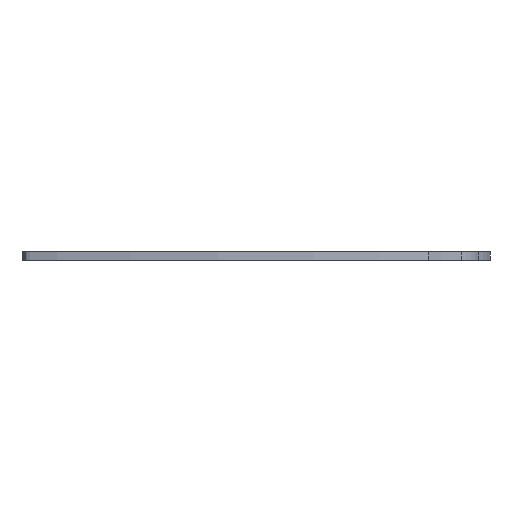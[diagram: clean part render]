
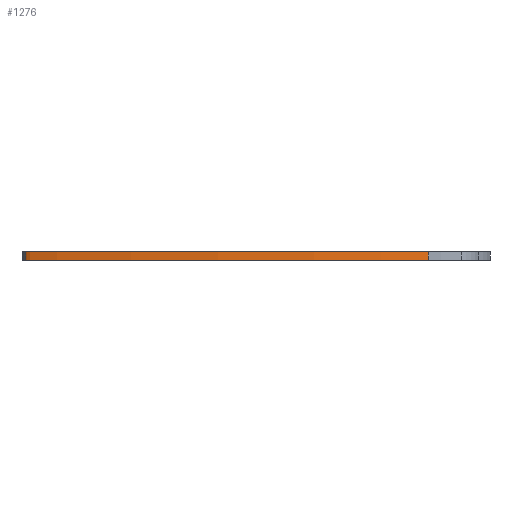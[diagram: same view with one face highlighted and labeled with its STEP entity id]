
A CAD part, front view. The second image highlights one B-rep face of the part: STEP entity #1276.
In plain terms, the highlighted face is a extrusion surface.
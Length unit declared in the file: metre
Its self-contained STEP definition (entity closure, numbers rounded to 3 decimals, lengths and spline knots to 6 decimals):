
#1276=ADVANCED_FACE('',(#2690),#2691,.T.);
#2690=FACE_OUTER_BOUND('',#4874,.T.);
#2691=SURFACE_OF_LINEAR_EXTRUSION('',#4875,#4876);
#4874=EDGE_LOOP('',(#10976,#10977,#10978,#10979));
#4875=B_SPLINE_CURVE_WITH_KNOTS('',3,(#10980,#10981,#10982,#10983,#10984,#10985,#10986,#10987,#10988,#10989,#10990,#10991,#10992,#10993,#10994,#10995,#10996),.UNSPECIFIED.,.F.,.F.,(4,1,1,1,1,1,1,1,1,1,1,1,1,1,4),(0.726109,0.729644,0.732934,0.736967,0.744913,0.752372,0.766561,0.777286,0.783243,0.789548,0.795537,0.800211,0.806229,0.810843,0.815116),.UNSPECIFIED.);
#4876=VECTOR('',#10997,1.0);
#10976=ORIENTED_EDGE('',*,*,#13448,.F.);
#10977=ORIENTED_EDGE('',*,*,#13942,.F.);
#10978=ORIENTED_EDGE('',*,*,#13120,.T.);
#10979=ORIENTED_EDGE('',*,*,#13940,.T.);
#10980=CARTESIAN_POINT('',(0.190926,0.251626,0.0));
#10981=CARTESIAN_POINT('',(0.188691,0.250937,0.0));
#10982=CARTESIAN_POINT('',(0.18415,0.24975,0.0));
#10983=CARTESIAN_POINT('',(0.177123,0.248167,0.0));
#10984=CARTESIAN_POINT('',(0.167257,0.246292,0.0));
#10985=CARTESIAN_POINT('',(0.153594,0.244242,0.0));
#10986=CARTESIAN_POINT('',(0.133581,0.243294,0.0));
#10987=CARTESIAN_POINT('',(0.111012,0.243397,0.0));
#10988=CARTESIAN_POINT('',(0.090734,0.245894,0.0));
#10989=CARTESIAN_POINT('',(0.074652,0.247765,0.0));
#10990=CARTESIAN_POINT('',(0.064612,0.249671,0.0));
#10991=CARTESIAN_POINT('',(0.044778,0.25443,0.0));
#10992=CARTESIAN_POINT('',(0.060824,0.257194,0.0));
#10993=CARTESIAN_POINT('',(0.071125,0.257658,0.0));
#10994=CARTESIAN_POINT('',(0.08188,0.257896,0.0));
#10995=CARTESIAN_POINT('',(0.087848,0.257609,0.0));
#10996=CARTESIAN_POINT('',(0.090589,0.257507,0.0));
#10997=DIRECTION('',(-0.0,-0.0,-1.0));
#13120=EDGE_CURVE('',#17658,#17656,#17659,.T.);
#13448=EDGE_CURVE('',#18297,#18299,#18300,.T.);
#13940=EDGE_CURVE('',#17656,#18299,#18885,.T.);
#13942=EDGE_CURVE('',#17658,#18297,#18887,.T.);
#17656=VERTEX_POINT('',#22058);
#17658=VERTEX_POINT('',#22066);
#17659=B_SPLINE_CURVE_WITH_KNOTS('',3,(#22067,#22068,#22069,#22070,#22071,#22072,#22073,#22074,#22075,#22076,#22077,#22078,#22079,#22080,#22081,#22082,#22083),.UNSPECIFIED.,.F.,.F.,(4,1,1,1,1,1,1,1,1,1,1,1,1,1,4),(0.726109,0.729644,0.732934,0.736967,0.744913,0.752372,0.766561,0.777286,0.783243,0.789548,0.795537,0.800211,0.806229,0.810843,0.815116),.UNSPECIFIED.);
#18297=VERTEX_POINT('',#24845);
#18299=VERTEX_POINT('',#24852);
#18300=B_SPLINE_CURVE_WITH_KNOTS('',3,(#24853,#24854,#24855,#24856,#24857,#24858,#24859,#24860,#24861,#24862,#24863,#24864,#24865,#24866,#24867,#24868,#24869),.UNSPECIFIED.,.F.,.F.,(4,1,1,1,1,1,1,1,1,1,1,1,1,1,4),(0.726109,0.729644,0.732934,0.736967,0.744913,0.752372,0.766561,0.777286,0.783243,0.789548,0.795537,0.800211,0.806229,0.810843,0.815116),.UNSPECIFIED.);
#18885=LINE('',#26313,#26314);
#18887=LINE('',#26316,#26317);
#22058=CARTESIAN_POINT('',(0.090589,0.257507,0.0));
#22066=CARTESIAN_POINT('',(0.190926,0.251626,0.0));
#22067=CARTESIAN_POINT('',(0.190926,0.251626,0.0));
#22068=CARTESIAN_POINT('',(0.188691,0.250937,0.0));
#22069=CARTESIAN_POINT('',(0.18415,0.24975,0.0));
#22070=CARTESIAN_POINT('',(0.177123,0.248167,0.0));
#22071=CARTESIAN_POINT('',(0.167257,0.246292,0.0));
#22072=CARTESIAN_POINT('',(0.153594,0.244242,0.0));
#22073=CARTESIAN_POINT('',(0.133581,0.243294,0.0));
#22074=CARTESIAN_POINT('',(0.111012,0.243397,0.0));
#22075=CARTESIAN_POINT('',(0.090734,0.245894,0.0));
#22076=CARTESIAN_POINT('',(0.074652,0.247765,0.0));
#22077=CARTESIAN_POINT('',(0.064612,0.249671,0.0));
#22078=CARTESIAN_POINT('',(0.044778,0.25443,0.0));
#22079=CARTESIAN_POINT('',(0.060824,0.257194,0.0));
#22080=CARTESIAN_POINT('',(0.071125,0.257658,0.0));
#22081=CARTESIAN_POINT('',(0.08188,0.257896,0.0));
#22082=CARTESIAN_POINT('',(0.087848,0.257609,0.0));
#22083=CARTESIAN_POINT('',(0.090589,0.257507,0.0));
#24845=CARTESIAN_POINT('',(0.190926,0.251626,-0.003));
#24852=CARTESIAN_POINT('',(0.090589,0.257507,-0.003));
#24853=CARTESIAN_POINT('',(0.190926,0.251626,-0.003));
#24854=CARTESIAN_POINT('',(0.188691,0.250937,-0.003));
#24855=CARTESIAN_POINT('',(0.18415,0.24975,-0.003));
#24856=CARTESIAN_POINT('',(0.177123,0.248167,-0.003));
#24857=CARTESIAN_POINT('',(0.167257,0.246292,-0.003));
#24858=CARTESIAN_POINT('',(0.153594,0.244242,-0.003));
#24859=CARTESIAN_POINT('',(0.133581,0.243294,-0.003));
#24860=CARTESIAN_POINT('',(0.111012,0.243397,-0.003));
#24861=CARTESIAN_POINT('',(0.090734,0.245894,-0.003));
#24862=CARTESIAN_POINT('',(0.074652,0.247765,-0.003));
#24863=CARTESIAN_POINT('',(0.064612,0.249671,-0.003));
#24864=CARTESIAN_POINT('',(0.044778,0.25443,-0.003));
#24865=CARTESIAN_POINT('',(0.060824,0.257194,-0.003));
#24866=CARTESIAN_POINT('',(0.071125,0.257658,-0.003));
#24867=CARTESIAN_POINT('',(0.08188,0.257896,-0.003));
#24868=CARTESIAN_POINT('',(0.087848,0.257609,-0.003));
#24869=CARTESIAN_POINT('',(0.090589,0.257507,-0.003));
#26313=CARTESIAN_POINT('',(0.090589,0.257507,0.0));
#26314=VECTOR('',#27400,1.0);
#26316=CARTESIAN_POINT('',(0.190926,0.251626,0.0));
#26317=VECTOR('',#27401,1.0);
#27400=DIRECTION('',(-0.0,-0.0,-1.0));
#27401=DIRECTION('',(-0.0,-0.0,-1.0));
